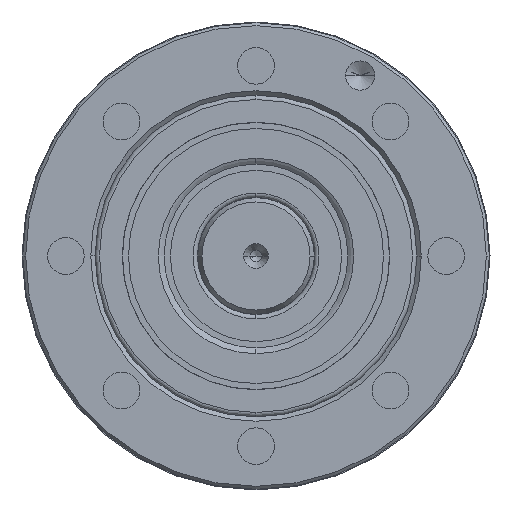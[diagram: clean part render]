
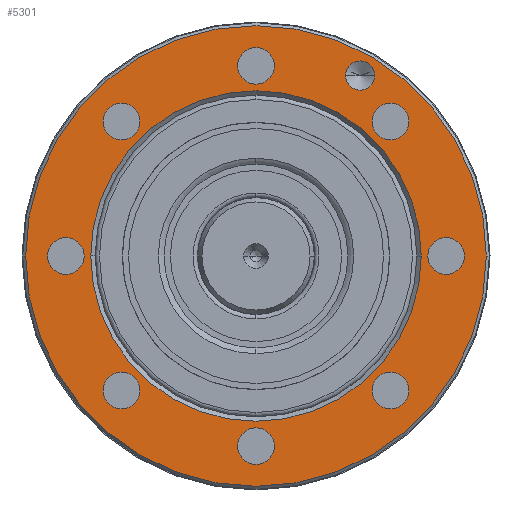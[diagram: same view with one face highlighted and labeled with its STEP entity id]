
A CAD part, left-side view. The second image highlights one B-rep face of the part: STEP entity #5301.
In plain terms, the highlighted planar face has unit normal (-1, 0, 0).
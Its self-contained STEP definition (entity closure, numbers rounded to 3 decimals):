
#1090=CARTESIAN_POINT('',(-2.85,0.,0.));
#1091=DIRECTION('',(-1.,0.,0.));
#1092=DIRECTION('',(0.,1.,0.));
#1093=AXIS2_PLACEMENT_3D('',#1090,#1091,#1092);
#1098=CARTESIAN_POINT('',(-2.85,0.,0.));
#1099=DIRECTION('',(-1.,0.,0.));
#1100=DIRECTION('',(0.,-1.,0.));
#1101=AXIS2_PLACEMENT_3D('',#1098,#1099,#1100);
#1106=CARTESIAN_POINT('',(-2.85,13.,0.));
#1107=DIRECTION('',(-1.,0.,0.));
#1108=DIRECTION('',(0.,1.,0.));
#1109=AXIS2_PLACEMENT_3D('',#1106,#1107,#1108);
#1114=CARTESIAN_POINT('',(-2.85,13.,0.));
#1115=DIRECTION('',(-1.,0.,0.));
#1116=DIRECTION('',(0.,-1.,0.));
#1117=AXIS2_PLACEMENT_3D('',#1114,#1115,#1116);
#1122=CARTESIAN_POINT('',(-2.85,9.192,9.192));
#1123=DIRECTION('',(-1.,0.,0.));
#1124=DIRECTION('',(0.,0.707,0.707));
#1125=AXIS2_PLACEMENT_3D('',#1122,#1123,#1124);
#1130=CARTESIAN_POINT('',(-2.85,9.192,9.192));
#1131=DIRECTION('',(-1.,0.,0.));
#1132=DIRECTION('',(0.,-0.707,-0.707));
#1133=AXIS2_PLACEMENT_3D('',#1130,#1131,#1132);
#1138=CARTESIAN_POINT('',(-2.85,0.,13.));
#1139=DIRECTION('',(-1.,0.,0.));
#1140=DIRECTION('',(0.,0.,1.));
#1141=AXIS2_PLACEMENT_3D('',#1138,#1139,#1140);
#1146=CARTESIAN_POINT('',(-2.85,0.,13.));
#1147=DIRECTION('',(-1.,0.,0.));
#1148=DIRECTION('',(0.,0.,-1.));
#1149=AXIS2_PLACEMENT_3D('',#1146,#1147,#1148);
#1154=CARTESIAN_POINT('',(-2.85,-9.192,9.192));
#1155=DIRECTION('',(-1.,0.,0.));
#1156=DIRECTION('',(0.,-0.707,0.707));
#1157=AXIS2_PLACEMENT_3D('',#1154,#1155,#1156);
#1162=CARTESIAN_POINT('',(-2.85,-9.192,9.192));
#1163=DIRECTION('',(-1.,0.,0.));
#1164=DIRECTION('',(0.,0.707,-0.707));
#1165=AXIS2_PLACEMENT_3D('',#1162,#1163,#1164);
#1170=CARTESIAN_POINT('',(-2.85,-13.,0.));
#1171=DIRECTION('',(-1.,0.,0.));
#1172=DIRECTION('',(0.,-1.,0.));
#1173=AXIS2_PLACEMENT_3D('',#1170,#1171,#1172);
#1178=CARTESIAN_POINT('',(-2.85,-13.,0.));
#1179=DIRECTION('',(-1.,0.,0.));
#1180=DIRECTION('',(0.,1.,0.));
#1181=AXIS2_PLACEMENT_3D('',#1178,#1179,#1180);
#1186=CARTESIAN_POINT('',(-2.85,-9.192,-9.192));
#1187=DIRECTION('',(-1.,0.,0.));
#1188=DIRECTION('',(0.,-0.707,-0.707));
#1189=AXIS2_PLACEMENT_3D('',#1186,#1187,#1188);
#1194=CARTESIAN_POINT('',(-2.85,-9.192,-9.192));
#1195=DIRECTION('',(-1.,0.,0.));
#1196=DIRECTION('',(0.,0.707,0.707));
#1197=AXIS2_PLACEMENT_3D('',#1194,#1195,#1196);
#1202=CARTESIAN_POINT('',(-2.85,0.,-13.));
#1203=DIRECTION('',(-1.,0.,0.));
#1204=DIRECTION('',(0.,0.,-1.));
#1205=AXIS2_PLACEMENT_3D('',#1202,#1203,#1204);
#1210=CARTESIAN_POINT('',(-2.85,0.,-13.));
#1211=DIRECTION('',(-1.,0.,0.));
#1212=DIRECTION('',(0.,0.,1.));
#1213=AXIS2_PLACEMENT_3D('',#1210,#1211,#1212);
#1218=CARTESIAN_POINT('',(-2.85,9.192,-9.192));
#1219=DIRECTION('',(-1.,0.,0.));
#1220=DIRECTION('',(0.,0.707,-0.707));
#1221=AXIS2_PLACEMENT_3D('',#1218,#1219,#1220);
#1226=CARTESIAN_POINT('',(-2.85,9.192,-9.192));
#1227=DIRECTION('',(-1.,0.,0.));
#1228=DIRECTION('',(0.,-0.707,0.707));
#1229=AXIS2_PLACEMENT_3D('',#1226,#1227,#1228);
#1234=CARTESIAN_POINT('',(-2.85,0.,0.));
#1235=DIRECTION('',(-1.,0.,0.));
#1236=DIRECTION('',(0.,-1.,0.));
#1237=AXIS2_PLACEMENT_3D('',#1234,#1235,#1236);
#1242=CARTESIAN_POINT('',(-2.85,0.,0.));
#1243=DIRECTION('',(-1.,0.,0.));
#1244=DIRECTION('',(0.,1.,0.));
#1245=AXIS2_PLACEMENT_3D('',#1242,#1243,#1244);
#1250=CARTESIAN_POINT('',(-2.85,-7.125,12.341));
#1251=DIRECTION('',(-1.,0.,0.));
#1252=DIRECTION('',(0.,1.,0.));
#1253=AXIS2_PLACEMENT_3D('',#1250,#1251,#1252);
#1258=CARTESIAN_POINT('',(-2.85,-7.125,12.341));
#1259=DIRECTION('',(-1.,0.,0.));
#1260=DIRECTION('',(0.,-1.,0.));
#1261=AXIS2_PLACEMENT_3D('',#1258,#1259,#1260);
#3628=CARTESIAN_POINT('',(-2.85,14.25,0.));
#3629=CARTESIAN_POINT('',(-2.85,11.75,0.));
#3630=VERTEX_POINT('',#3628);
#3631=VERTEX_POINT('',#3629);
#3632=CARTESIAN_POINT('',(-2.85,10.076,10.076));
#3633=CARTESIAN_POINT('',(-2.85,8.309,8.309));
#3634=VERTEX_POINT('',#3632);
#3635=VERTEX_POINT('',#3633);
#3636=CARTESIAN_POINT('',(-2.85,0.,14.25));
#3637=CARTESIAN_POINT('',(-2.85,0.,11.75));
#3638=VERTEX_POINT('',#3636);
#3639=VERTEX_POINT('',#3637);
#3640=CARTESIAN_POINT('',(-2.85,-10.076,10.076));
#3641=CARTESIAN_POINT('',(-2.85,-8.309,8.309));
#3642=VERTEX_POINT('',#3640);
#3643=VERTEX_POINT('',#3641);
#3644=CARTESIAN_POINT('',(-2.85,-14.25,0.));
#3645=CARTESIAN_POINT('',(-2.85,-11.75,0.));
#3646=VERTEX_POINT('',#3644);
#3647=VERTEX_POINT('',#3645);
#3648=CARTESIAN_POINT('',(-2.85,-10.076,-10.076));
#3649=CARTESIAN_POINT('',(-2.85,-8.309,-8.309));
#3650=VERTEX_POINT('',#3648);
#3651=VERTEX_POINT('',#3649);
#3652=CARTESIAN_POINT('',(-2.85,0.,-14.25));
#3653=CARTESIAN_POINT('',(-2.85,0.,-11.75));
#3654=VERTEX_POINT('',#3652);
#3655=VERTEX_POINT('',#3653);
#3656=CARTESIAN_POINT('',(-2.85,10.076,-10.076));
#3657=CARTESIAN_POINT('',(-2.85,8.309,-8.309));
#3658=VERTEX_POINT('',#3656);
#3659=VERTEX_POINT('',#3657);
#3660=CARTESIAN_POINT('',(-2.85,15.75,0.));
#3661=CARTESIAN_POINT('',(-2.85,-15.75,0.));
#3662=VERTEX_POINT('',#3660);
#3663=VERTEX_POINT('',#3661);
#3668=CARTESIAN_POINT('',(-2.85,-11.3,0.));
#3669=CARTESIAN_POINT('',(-2.85,11.3,0.));
#3670=VERTEX_POINT('',#3668);
#3671=VERTEX_POINT('',#3669);
#3678=CARTESIAN_POINT('',(-2.85,-6.125,12.341));
#3679=CARTESIAN_POINT('',(-2.85,-8.125,12.341));
#3680=VERTEX_POINT('',#3678);
#3681=VERTEX_POINT('',#3679);
#5231=CARTESIAN_POINT('',(-2.85,0.,0.));
#5232=DIRECTION('',(-1.,0.,0.));
#5233=DIRECTION('',(0.,1.,0.));
#5234=AXIS2_PLACEMENT_3D('',#5231,#5232,#5233);
#5235=PLANE('',#5234);
#5237=ORIENTED_EDGE('',*,*,#5236,.F.);
#5238=ORIENTED_EDGE('',*,*,#5214,.F.);
#5239=EDGE_LOOP('',(#5237,#5238));
#5240=FACE_OUTER_BOUND('',#5239,.F.);
#5242=ORIENTED_EDGE('',*,*,#5241,.T.);
#5244=ORIENTED_EDGE('',*,*,#5243,.T.);
#5245=EDGE_LOOP('',(#5242,#5244));
#5246=FACE_BOUND('',#5245,.F.);
#5248=ORIENTED_EDGE('',*,*,#5247,.T.);
#5250=ORIENTED_EDGE('',*,*,#5249,.T.);
#5251=EDGE_LOOP('',(#5248,#5250));
#5252=FACE_BOUND('',#5251,.F.);
#5254=ORIENTED_EDGE('',*,*,#5253,.T.);
#5256=ORIENTED_EDGE('',*,*,#5255,.T.);
#5257=EDGE_LOOP('',(#5254,#5256));
#5258=FACE_BOUND('',#5257,.F.);
#5260=ORIENTED_EDGE('',*,*,#5259,.T.);
#5262=ORIENTED_EDGE('',*,*,#5261,.T.);
#5263=EDGE_LOOP('',(#5260,#5262));
#5264=FACE_BOUND('',#5263,.F.);
#5266=ORIENTED_EDGE('',*,*,#5265,.T.);
#5268=ORIENTED_EDGE('',*,*,#5267,.T.);
#5269=EDGE_LOOP('',(#5266,#5268));
#5270=FACE_BOUND('',#5269,.F.);
#5272=ORIENTED_EDGE('',*,*,#5271,.T.);
#5274=ORIENTED_EDGE('',*,*,#5273,.T.);
#5275=EDGE_LOOP('',(#5272,#5274));
#5276=FACE_BOUND('',#5275,.F.);
#5278=ORIENTED_EDGE('',*,*,#5277,.T.);
#5280=ORIENTED_EDGE('',*,*,#5279,.T.);
#5281=EDGE_LOOP('',(#5278,#5280));
#5282=FACE_BOUND('',#5281,.F.);
#5284=ORIENTED_EDGE('',*,*,#5283,.T.);
#5286=ORIENTED_EDGE('',*,*,#5285,.T.);
#5287=EDGE_LOOP('',(#5284,#5286));
#5288=FACE_BOUND('',#5287,.F.);
#5290=ORIENTED_EDGE('',*,*,#5289,.T.);
#5292=ORIENTED_EDGE('',*,*,#5291,.T.);
#5293=EDGE_LOOP('',(#5290,#5292));
#5294=FACE_BOUND('',#5293,.F.);
#5296=ORIENTED_EDGE('',*,*,#5295,.T.);
#5298=ORIENTED_EDGE('',*,*,#5297,.T.);
#5299=EDGE_LOOP('',(#5296,#5298));
#5300=FACE_BOUND('',#5299,.F.);
#5301=ADVANCED_FACE('',(#5240,#5246,#5252,#5258,#5264,#5270,#5276,#5282,#5288,
#5294,#5300),#5235,.T.);
#1094=CIRCLE('',#1093,15.75);
#1102=CIRCLE('',#1101,15.75);
#1110=CIRCLE('',#1109,1.25);
#1118=CIRCLE('',#1117,1.25);
#1126=CIRCLE('',#1125,1.25);
#1134=CIRCLE('',#1133,1.25);
#1142=CIRCLE('',#1141,1.25);
#1150=CIRCLE('',#1149,1.25);
#1158=CIRCLE('',#1157,1.25);
#1166=CIRCLE('',#1165,1.25);
#1174=CIRCLE('',#1173,1.25);
#1182=CIRCLE('',#1181,1.25);
#1190=CIRCLE('',#1189,1.25);
#1198=CIRCLE('',#1197,1.25);
#1206=CIRCLE('',#1205,1.25);
#1214=CIRCLE('',#1213,1.25);
#1222=CIRCLE('',#1221,1.25);
#1230=CIRCLE('',#1229,1.25);
#1238=CIRCLE('',#1237,11.3);
#1246=CIRCLE('',#1245,11.3);
#1254=CIRCLE('',#1253,1.);
#1262=CIRCLE('',#1261,1.);
#5214=EDGE_CURVE('',#3663,#3662,#1102,.T.);
#5236=EDGE_CURVE('',#3662,#3663,#1094,.T.);
#5241=EDGE_CURVE('',#3630,#3631,#1110,.T.);
#5243=EDGE_CURVE('',#3631,#3630,#1118,.T.);
#5247=EDGE_CURVE('',#3634,#3635,#1126,.T.);
#5249=EDGE_CURVE('',#3635,#3634,#1134,.T.);
#5253=EDGE_CURVE('',#3638,#3639,#1142,.T.);
#5255=EDGE_CURVE('',#3639,#3638,#1150,.T.);
#5259=EDGE_CURVE('',#3642,#3643,#1158,.T.);
#5261=EDGE_CURVE('',#3643,#3642,#1166,.T.);
#5265=EDGE_CURVE('',#3646,#3647,#1174,.T.);
#5267=EDGE_CURVE('',#3647,#3646,#1182,.T.);
#5271=EDGE_CURVE('',#3650,#3651,#1190,.T.);
#5273=EDGE_CURVE('',#3651,#3650,#1198,.T.);
#5277=EDGE_CURVE('',#3654,#3655,#1206,.T.);
#5279=EDGE_CURVE('',#3655,#3654,#1214,.T.);
#5283=EDGE_CURVE('',#3658,#3659,#1222,.T.);
#5285=EDGE_CURVE('',#3659,#3658,#1230,.T.);
#5289=EDGE_CURVE('',#3670,#3671,#1238,.T.);
#5291=EDGE_CURVE('',#3671,#3670,#1246,.T.);
#5295=EDGE_CURVE('',#3680,#3681,#1254,.T.);
#5297=EDGE_CURVE('',#3681,#3680,#1262,.T.);
